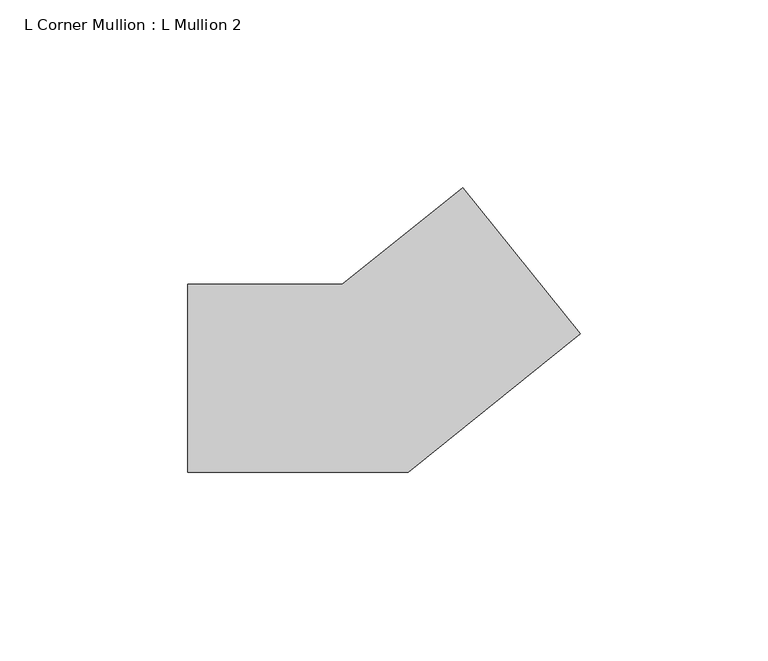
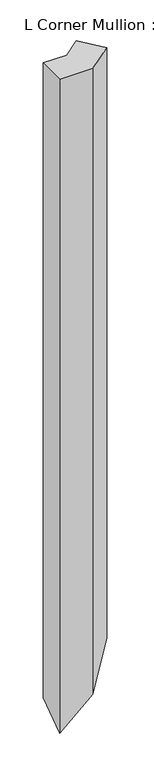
"""IFC4 building model written with IfcOpenShell, lengths in millimetres: member geometry, L Corner Mullion : L Mullion 2."""

from ifc_helpers import new_model, si_unit, origin, place, context, project, spatial, faceted_brep, source, transform, mapped, element, save


def l_corner_mullion_l_mullion_2_a3b6a5d6(model_context):
    return source(origin(), model_context, "Body", "Brep", [
        faceted_brep([(23.322768, 50.8040204, 0.0), (54.6368772, 11.8241978, 0.0), (54.6368772, 11.8241978, -1106.7380244), (23.322768, 50.8040204, -1106.7380244), (-8.7980927, 25.0, 0.0), (-8.7980927, 25.0, -1153.4020706), (-50.0, 25.0, 0.0), (-50.0, 25.0, -1189.7811955), (-50.0, -25.0, 0.0), (-50.0, -25.0, -1225.2466176), (8.7980927, -25.0, 0.0), (8.7980927, -25.0, -1173.3309832)], [[[0, 1, 2, 3]], [[4, 0, 3, 5]], [[6, 4, 5, 7]], [[8, 6, 7, 9]], [[10, 8, 9, 11]], [[1, 10, 11, 2]], [[1, 0, 4, 6, 8, 10]], [[2, 11, 9, 7, 5, 3]]]),
    ])


if __name__ == "__main__":
    model = new_model("IFC4")
    model_context = context("Model", 3, world=origin())
    ifc_project = project(units=[si_unit("LENGTHUNIT", "METRE", prefix="MILLI")], contexts=[model_context])
    site = spatial("IfcSite", under=ifc_project)
    building = spatial("IfcBuilding", under=site)
    placement = place(None, origin())
    l_corner_mullion_l_mullion_2_shape = l_corner_mullion_l_mullion_2_a3b6a5d6(model_context)
    element("IfcMember", 1, ObjectType="L Corner Mullion : L Mullion 2", at=placement, inside=building, context=model_context, shape_type="MappedRepresentation", body=[
        mapped(l_corner_mullion_l_mullion_2_shape, transform((0.0, 0.0, 0.0), x_axis=(1.0, 0.0, 0.0), y_axis=(0.0, 1.0, 0.0), z_axis=(0.0, 0.0, 1.0))),
    ])
    save(model, "model.ifc")
